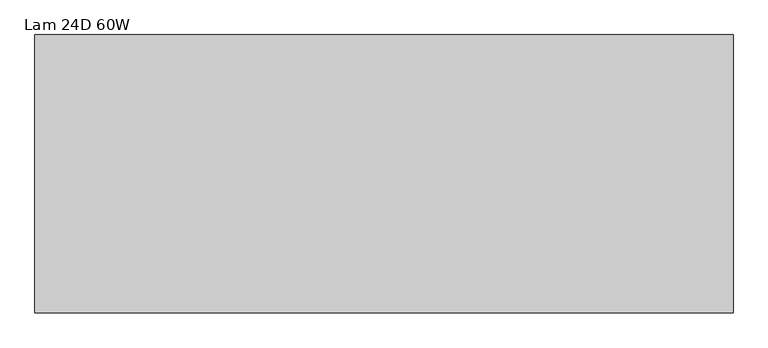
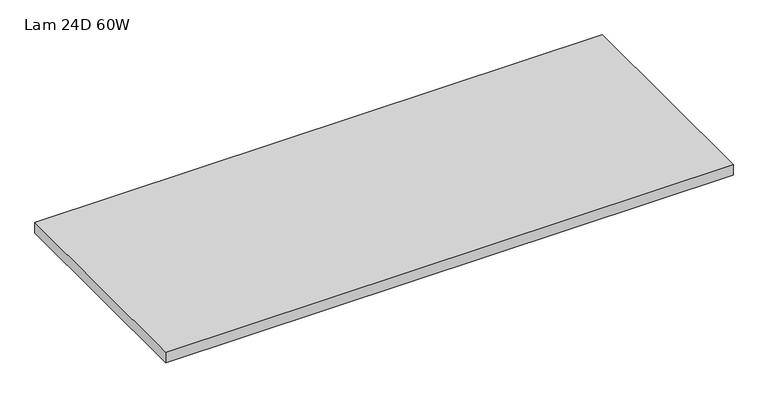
"""IFC4 building model written with IfcOpenShell, lengths in millimetres: furniture geometry, HermanMiller_CoStruc_C4700_RectangularWorkTableSurface : Lam 24D 60W."""

from ifc_helpers import new_model, si_unit, frame, origin, place, context, project, spatial, polyline, outline, extrude, source, transform, mapped, element, save


def lam_24d_60w_20807aee(model_context):
    return source(origin(), model_context, "Body", "SweptSolid", [
        extrude(outline(polyline([(1371.5999999, -3.0467299), (1371.5999999, -609.6), (-149.2249999, -609.6), (-149.2249999, -3.0467299), (1371.5999999, -3.0467299)])), frame((0.0, 0.0, 884.4093191), z_axis=(0.0, 0.0, 1.0), x_axis=(1.0, 0.0, 0.0)), (0.0, 0.0, 1.0), 29.972),
    ])


if __name__ == "__main__":
    model = new_model("IFC4")
    model_context = context("Model", 3, world=origin())
    ifc_project = project(units=[si_unit("LENGTHUNIT", "METRE", prefix="MILLI")], contexts=[model_context])
    site = spatial("IfcSite", under=ifc_project)
    building = spatial("IfcBuilding", under=site)
    placement = place(None, origin())
    lam_24d_60w_shape = lam_24d_60w_20807aee(model_context)
    element("IfcFurniture", 1, ObjectType="HermanMiller_CoStruc_C4700_RectangularWorkTableSurface : Lam 24D 60W", at=placement, inside=building, context=model_context, shape_type="MappedRepresentation", body=[
        mapped(lam_24d_60w_shape, transform((0.0, 0.0, 0.0), x_axis=(1.0, 0.0, 0.0), y_axis=(0.0, 1.0, 0.0), z_axis=(0.0, 0.0, 1.0))),
    ])
    save(model, "model.ifc")
